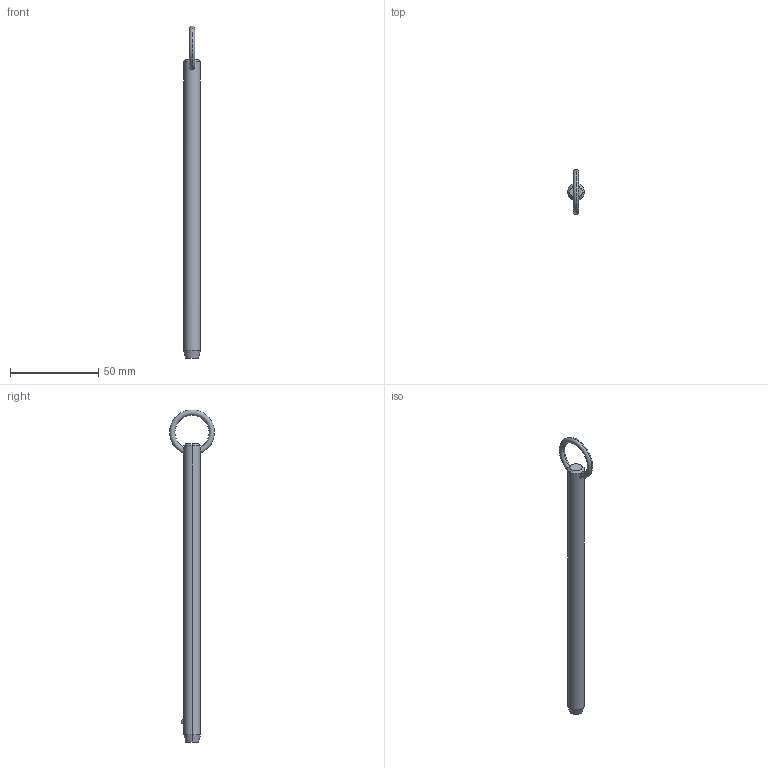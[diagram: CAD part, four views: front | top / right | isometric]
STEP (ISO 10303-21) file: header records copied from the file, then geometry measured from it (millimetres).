
FILE_DESCRIPTION (( 'STEP AP203' ), '1' );
FILE_NAME ('P1250.037-590.step', '2019-07-29T20:14:39', ( '' ), ( '' ), 'SwSTEP 2.0', 'SolidWorks 2017', '' );
FILE_SCHEMA (( 'CONFIG_CONTROL_DESIGN' ));
Length unit declared in the file: millimetre
Products named in the file (1): P1250.037-590
Bounding box: 9.52 x 25.39 x 188 mm (x, y, z)
Volume: 12377.2 mm3; surface area: 5695.2 mm2
Topology: 1 solids, 1 shells, 12 faces, 28 edges, 17 vertices
Faces by surface type: cone 4, torus 2, sphere 2, cylinder 2, plane 2
Entity records: 523 total; most frequent: CARTESIAN_POINT 190, DIRECTION 56, ORIENTED_EDGE 48, AXIS2_PLACEMENT_3D 25, EDGE_CURVE 24, VERTEX_POINT 15, EDGE_LOOP 15, ADVANCED_FACE 12
